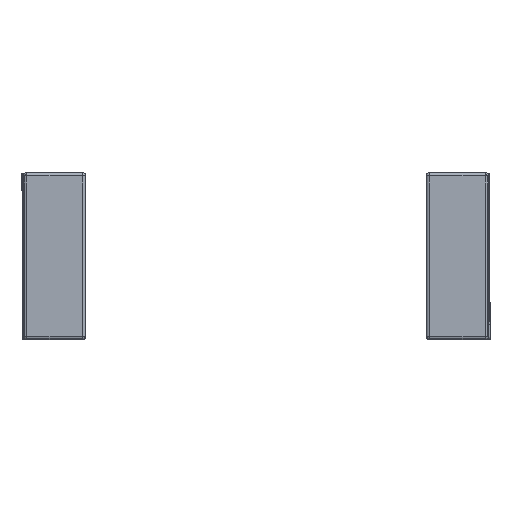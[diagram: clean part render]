
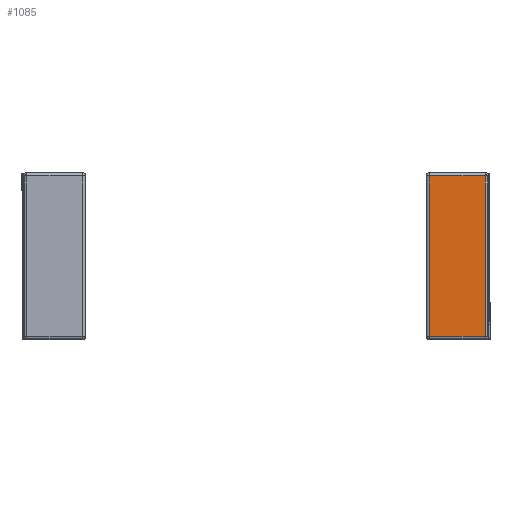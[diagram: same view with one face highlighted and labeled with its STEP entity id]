
A CAD part, front view. The second image highlights one B-rep face of the part: STEP entity #1085.
In plain terms, the highlighted planar face has unit normal (0, -1, 0) as drawn and (0, 1, 0) by its records, which use the part's own axes.
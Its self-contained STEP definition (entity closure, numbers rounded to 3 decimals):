
#1085=ADVANCED_FACE('',(#1884),#1886,.T.);
#1884=FACE_BOUND('',#1885,.T.);
#1885=EDGE_LOOP('',(#6975,#6976,#6977,#6978));
#1886=PLANE('',#1887);
#1887=AXIS2_PLACEMENT_3D('',#1888,#1889,#1890);
#1888=CARTESIAN_POINT('',(37.5,51.75,-2.));
#1889=DIRECTION('',(0.,1.,0.));
#1890=DIRECTION('',(-1.,0.,0.));
#6975=ORIENTED_EDGE('',*,*,#9759,.F.);
#6976=ORIENTED_EDGE('',*,*,#9760,.F.);
#6977=ORIENTED_EDGE('',*,*,#9761,.T.);
#6978=ORIENTED_EDGE('',*,*,#9762,.F.);
#9759=EDGE_CURVE('',#11240,#11241,#11242,.T.);
#9760=EDGE_CURVE('',#11243,#11240,#11244,.T.);
#9761=EDGE_CURVE('',#11243,#11245,#11246,.T.);
#9762=EDGE_CURVE('',#11241,#11245,#11247,.T.);
#11240=VERTEX_POINT('',#13778);
#11241=VERTEX_POINT('',#13779);
#11242=LINE('',#13780,#13781);
#11243=VERTEX_POINT('',#13783);
#11244=LINE('',#13784,#13785);
#11245=VERTEX_POINT('',#13787);
#11246=LINE('',#13788,#13789);
#11247=LINE('',#13791,#13792);
#13778=CARTESIAN_POINT('',(-33.5,51.75,-4.));
#13779=CARTESIAN_POINT('',(-33.5,51.75,-196.));
#13780=CARTESIAN_POINT('',(-33.5,51.75,-4.));
#13781=VECTOR('',#13782,1.);
#13782=DIRECTION('',(0.,0.,-1.));
#13783=CARTESIAN_POINT('',(33.5,51.75,-4.));
#13784=CARTESIAN_POINT('',(33.5,51.75,-4.));
#13785=VECTOR('',#13786,1.);
#13786=DIRECTION('',(-1.,0.,0.));
#13787=CARTESIAN_POINT('',(33.5,51.75,-196.));
#13788=CARTESIAN_POINT('',(33.5,51.75,-4.));
#13789=VECTOR('',#13790,1.);
#13790=DIRECTION('',(0.,0.,-1.));
#13791=CARTESIAN_POINT('',(-33.5,51.75,-196.));
#13792=VECTOR('',#13793,1.);
#13793=DIRECTION('',(1.,0.,0.));
